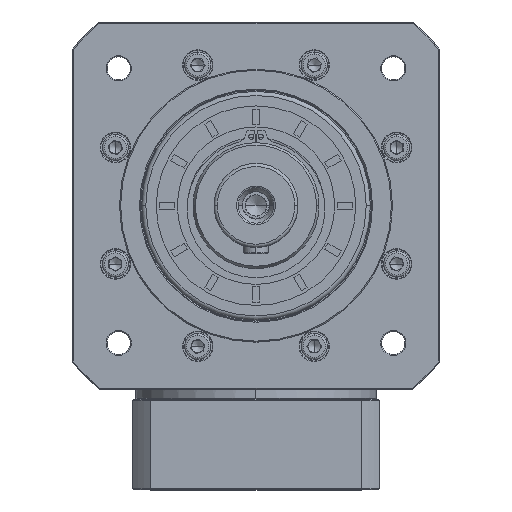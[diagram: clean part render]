
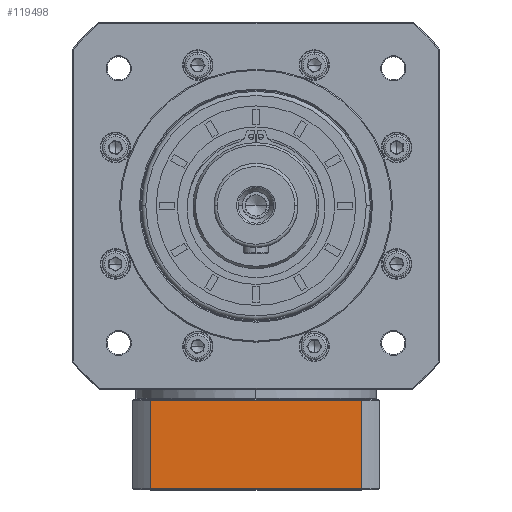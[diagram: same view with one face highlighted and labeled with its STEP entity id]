
A CAD part, top view. The second image highlights one B-rep face of the part: STEP entity #119498.
In plain terms, the highlighted planar face has unit normal (0, 0, 1).
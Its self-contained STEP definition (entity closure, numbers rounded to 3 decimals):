
#320 = DIRECTION ( 'NONE',  ( 0., 1., 0. ) ) ;
#2874 = DIRECTION ( 'NONE',  ( 0., -1., 0. ) ) ;
#11169 = VERTEX_POINT ( 'NONE', #153249 ) ;
#18178 = VERTEX_POINT ( 'NONE', #98199 ) ;
#23262 = CARTESIAN_POINT ( 'NONE',  ( -222.522, -221.607, 27.459 ) ) ;
#35877 = ORIENTED_EDGE ( 'NONE', *, *, #78017, .F. ) ;
#36067 = AXIS2_PLACEMENT_3D ( 'NONE', #81305, #142948, #93303 ) ;
#48596 = LINE ( 'NONE', #70145, #138426 ) ;
#55146 = CARTESIAN_POINT ( 'NONE',  ( -231.27, -179.107, 27.459 ) ) ;
#56771 = ORIENTED_EDGE ( 'NONE', *, *, #142340, .F. ) ;
#57430 = ORIENTED_EDGE ( 'NONE', *, *, #64437, .F. ) ;
#58317 = CARTESIAN_POINT ( 'NONE',  ( -222.522, -179.107, 27.459 ) ) ;
#60130 = VECTOR ( 'NONE', #68731, 1000. ) ;
#64437 = EDGE_CURVE ( 'NONE', #88946, #18178, #120550, .T. ) ;
#68731 = DIRECTION ( 'NONE',  ( 1., 0., 0. ) ) ;
#70145 = CARTESIAN_POINT ( 'NONE',  ( -231.27, -221.107, 27.459 ) ) ;
#78017 = EDGE_CURVE ( 'NONE', #18178, #107881, #120841, .T. ) ;
#81305 = CARTESIAN_POINT ( 'NONE',  ( -231.27, -221.607, 27.459 ) ) ;
#88946 = VERTEX_POINT ( 'NONE', #58317 ) ;
#93303 = DIRECTION ( 'NONE',  ( -1., 0., 0. ) ) ;
#94757 = VECTOR ( 'NONE', #320, 1000. ) ;
#96643 = LINE ( 'NONE', #23262, #94757 ) ;
#98199 = CARTESIAN_POINT ( 'NONE',  ( -122.018, -179.107, 27.459 ) ) ;
#107881 = VERTEX_POINT ( 'NONE', #153770 ) ;
#114468 = EDGE_LOOP ( 'NONE', ( #35877, #57430, #143905, #56771 ) ) ;
#116824 = EDGE_CURVE ( 'NONE', #11169, #88946, #96643, .T. ) ;
#118798 = FACE_OUTER_BOUND ( 'NONE', #114468, .T. ) ;
#119498 = ADVANCED_FACE ( 'NONE', ( #118798 ), #155018, .F. ) ;
#120550 = LINE ( 'NONE', #55146, #60130 ) ;
#120841 = LINE ( 'NONE', #152227, #132508 ) ;
#132508 = VECTOR ( 'NONE', #2874, 1000. ) ;
#138426 = VECTOR ( 'NONE', #145977, 1000. ) ;
#142340 = EDGE_CURVE ( 'NONE', #107881, #11169, #48596, .T. ) ;
#142948 = DIRECTION ( 'NONE',  ( 0., 0., -1. ) ) ;
#143905 = ORIENTED_EDGE ( 'NONE', *, *, #116824, .F. ) ;
#145977 = DIRECTION ( 'NONE',  ( -1., 0., 0. ) ) ;
#152227 = CARTESIAN_POINT ( 'NONE',  ( -122.018, 42.788, 27.459 ) ) ;
#153249 = CARTESIAN_POINT ( 'NONE',  ( -222.522, -221.107, 27.459 ) ) ;
#153770 = CARTESIAN_POINT ( 'NONE',  ( -122.018, -221.107, 27.459 ) ) ;
#155018 = PLANE ( 'NONE',  #36067 ) ;
